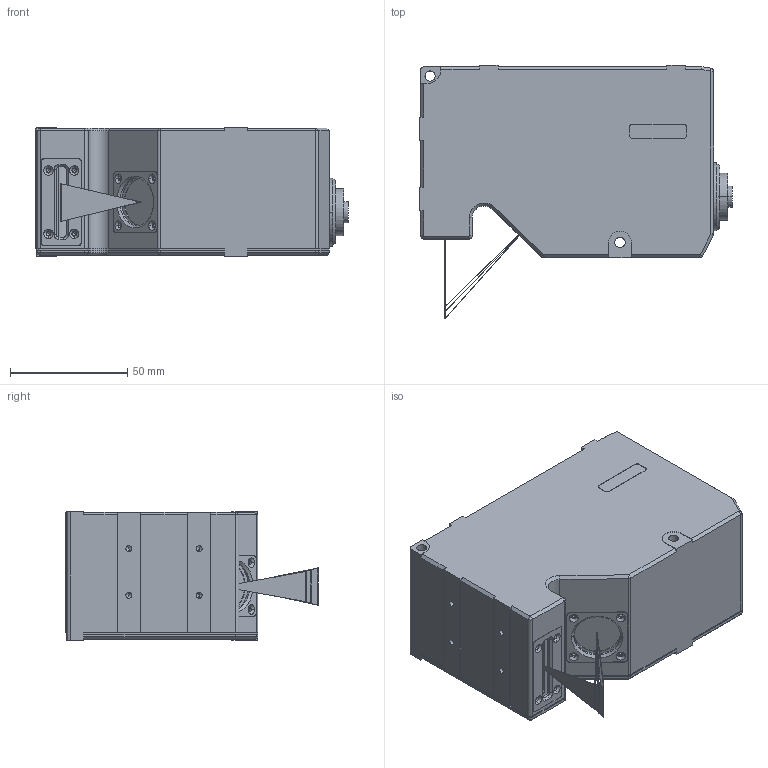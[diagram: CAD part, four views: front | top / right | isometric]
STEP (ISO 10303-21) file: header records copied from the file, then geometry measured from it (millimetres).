
FILE_DESCRIPTION (( 'STEP AP203' ), '1' );
FILE_NAME ('SR8020-01-01假蚾尨砩芞.STEP', '2022-03-22T05:39:50', ( '' ), ( '' ), 'SwSTEP 2.0', 'SolidWorks 2020', '' );
FILE_SCHEMA (( 'CONFIG_CONTROL_DESIGN' ));
Length unit declared in the file: millimetre
Products named in the file (1): SR8020-01-01假蚾尨砩芞
Bounding box: 133.5 x 107.9 x 55 mm (x, y, z)
Volume: 133415.6 mm3; surface area: 84972.8 mm2
Topology: 2 solids, 2 shells, 794 faces, 2114 edges, 1356 vertices
Faces by surface type: plane 412, cylinder 163, bspline 147, cone 70, torus 2
Entity records: 31397 total; most frequent: CARTESIAN_POINT 12410, ORIENTED_EDGE 4164, DIRECTION 3458, EDGE_CURVE 2082, VECTOR 1410, LINE 1410, VERTEX_POINT 1356, AXIS2_PLACEMENT_3D 1024
